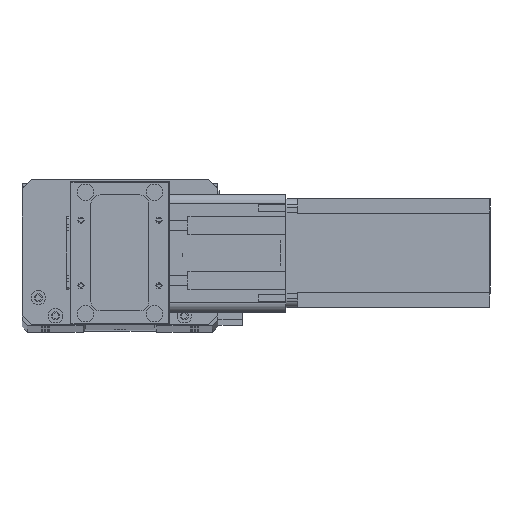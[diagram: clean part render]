
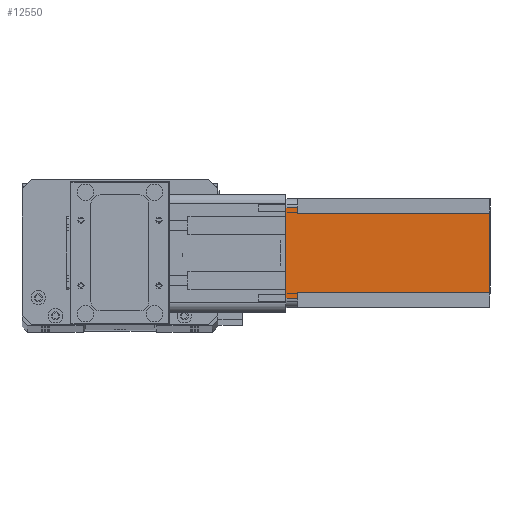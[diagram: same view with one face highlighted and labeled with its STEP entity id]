
A CAD part, top view. The second image highlights one B-rep face of the part: STEP entity #12550.
In plain terms, the highlighted planar face has unit normal (0, 0, 1) as drawn and (0, 1, 0) by its records, which use the part's own axes.
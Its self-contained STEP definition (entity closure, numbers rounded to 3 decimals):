
#109 = VERTEX_POINT ( 'NONE', #13470 ) ;
#272 = LINE ( 'NONE', #23548, #11708 ) ;
#767 = VECTOR ( 'NONE', #17563, 1000. ) ;
#1786 = LINE ( 'NONE', #29590, #27251 ) ;
#1871 = LINE ( 'NONE', #5081, #7216 ) ;
#1921 = AXIS2_PLACEMENT_3D ( 'NONE', #15383, #17689, #3991 ) ;
#2770 = DIRECTION ( 'NONE',  ( -1., 0., 0. ) ) ;
#2995 = EDGE_CURVE ( 'NONE', #6194, #20197, #15582, .T. ) ;
#3748 = CARTESIAN_POINT ( 'NONE',  ( 52., 60., -112.5 ) ) ;
#3768 = CARTESIAN_POINT ( 'NONE',  ( 52., 60., -6.5 ) ) ;
#3991 = DIRECTION ( 'NONE',  ( 0., 0., 1. ) ) ;
#4351 = ORIENTED_EDGE ( 'NONE', *, *, #12029, .T. ) ;
#4553 = VECTOR ( 'NONE', #12432, 1000. ) ;
#5081 = CARTESIAN_POINT ( 'NONE',  ( 0., 60., 0. ) ) ;
#6194 = VERTEX_POINT ( 'NONE', #7165 ) ;
#6254 = DIRECTION ( 'NONE',  ( 0., 0., 1. ) ) ;
#6320 = EDGE_CURVE ( 'NONE', #19315, #8362, #272, .T. ) ;
#6889 = LINE ( 'NONE', #3748, #767 ) ;
#7052 = EDGE_CURVE ( 'NONE', #109, #20197, #22785, .T. ) ;
#7165 = CARTESIAN_POINT ( 'NONE',  ( 8., 60., -6.5 ) ) ;
#7216 = VECTOR ( 'NONE', #2770, 1000. ) ;
#7819 = CARTESIAN_POINT ( 'NONE',  ( 0., 60., -112.5 ) ) ;
#8362 = VERTEX_POINT ( 'NONE', #29137 ) ;
#8454 = CARTESIAN_POINT ( 'NONE',  ( 5., 60., -112.5 ) ) ;
#8778 = ORIENTED_EDGE ( 'NONE', *, *, #24120, .T. ) ;
#9920 = CARTESIAN_POINT ( 'NONE',  ( 5., 60., -6.5 ) ) ;
#10675 = CARTESIAN_POINT ( 'NONE',  ( 8., 60., -112.5 ) ) ;
#10756 = CARTESIAN_POINT ( 'NONE',  ( 55., 60., 0. ) ) ;
#11460 = VERTEX_POINT ( 'NONE', #17182 ) ;
#11708 = VECTOR ( 'NONE', #28130, 1000. ) ;
#12029 = EDGE_CURVE ( 'NONE', #6194, #12920, #1786, .T. ) ;
#12151 = LINE ( 'NONE', #8454, #15388 ) ;
#12207 = EDGE_CURVE ( 'NONE', #19315, #19256, #1871, .T. ) ;
#12432 = DIRECTION ( 'NONE',  ( -1., 0., 0. ) ) ;
#12550 = ADVANCED_FACE ( 'NONE', ( #17604 ), #29040, .T. ) ;
#12770 = CARTESIAN_POINT ( 'NONE',  ( 5., 60., 0. ) ) ;
#12920 = VERTEX_POINT ( 'NONE', #9920 ) ;
#13470 = CARTESIAN_POINT ( 'NONE',  ( 52., 60., -112.5 ) ) ;
#13928 = ORIENTED_EDGE ( 'NONE', *, *, #7052, .T. ) ;
#14856 = VECTOR ( 'NONE', #22311, 1000. ) ;
#15133 = ORIENTED_EDGE ( 'NONE', *, *, #2995, .F. ) ;
#15383 = CARTESIAN_POINT ( 'NONE',  ( 0., 60., -112.5 ) ) ;
#15388 = VECTOR ( 'NONE', #6254, 1000. ) ;
#15474 = EDGE_LOOP ( 'NONE', ( #16002, #27361, #26731, #17393, #13928, #15133, #4351, #8778 ) ) ;
#15582 = LINE ( 'NONE', #21421, #14856 ) ;
#16002 = ORIENTED_EDGE ( 'NONE', *, *, #12207, .F. ) ;
#17182 = CARTESIAN_POINT ( 'NONE',  ( 52., 60., -6.5 ) ) ;
#17393 = ORIENTED_EDGE ( 'NONE', *, *, #22579, .F. ) ;
#17563 = DIRECTION ( 'NONE',  ( 0., 0., 1. ) ) ;
#17604 = FACE_OUTER_BOUND ( 'NONE', #15474, .T. ) ;
#17676 = DIRECTION ( 'NONE',  ( 1., 0., 0. ) ) ;
#17689 = DIRECTION ( 'NONE',  ( 0., 1., 0. ) ) ;
#18230 = DIRECTION ( 'NONE',  ( -1., 0., 0. ) ) ;
#19256 = VERTEX_POINT ( 'NONE', #12770 ) ;
#19315 = VERTEX_POINT ( 'NONE', #10756 ) ;
#20197 = VERTEX_POINT ( 'NONE', #10675 ) ;
#21421 = CARTESIAN_POINT ( 'NONE',  ( 8., 60., -112.5 ) ) ;
#22179 = LINE ( 'NONE', #3768, #27530 ) ;
#22311 = DIRECTION ( 'NONE',  ( 0., 0., -1. ) ) ;
#22579 = EDGE_CURVE ( 'NONE', #109, #11460, #6889, .T. ) ;
#22785 = LINE ( 'NONE', #7819, #4553 ) ;
#23548 = CARTESIAN_POINT ( 'NONE',  ( 55., 60., -112.5 ) ) ;
#24117 = EDGE_CURVE ( 'NONE', #11460, #8362, #22179, .T. ) ;
#24120 = EDGE_CURVE ( 'NONE', #12920, #19256, #12151, .T. ) ;
#26731 = ORIENTED_EDGE ( 'NONE', *, *, #24117, .F. ) ;
#27251 = VECTOR ( 'NONE', #18230, 1000. ) ;
#27361 = ORIENTED_EDGE ( 'NONE', *, *, #6320, .T. ) ;
#27530 = VECTOR ( 'NONE', #17676, 1000. ) ;
#28130 = DIRECTION ( 'NONE',  ( 0., 0., -1. ) ) ;
#29040 = PLANE ( 'NONE',  #1921 ) ;
#29137 = CARTESIAN_POINT ( 'NONE',  ( 55., 60., -6.5 ) ) ;
#29590 = CARTESIAN_POINT ( 'NONE',  ( 8., 60., -6.5 ) ) ;
